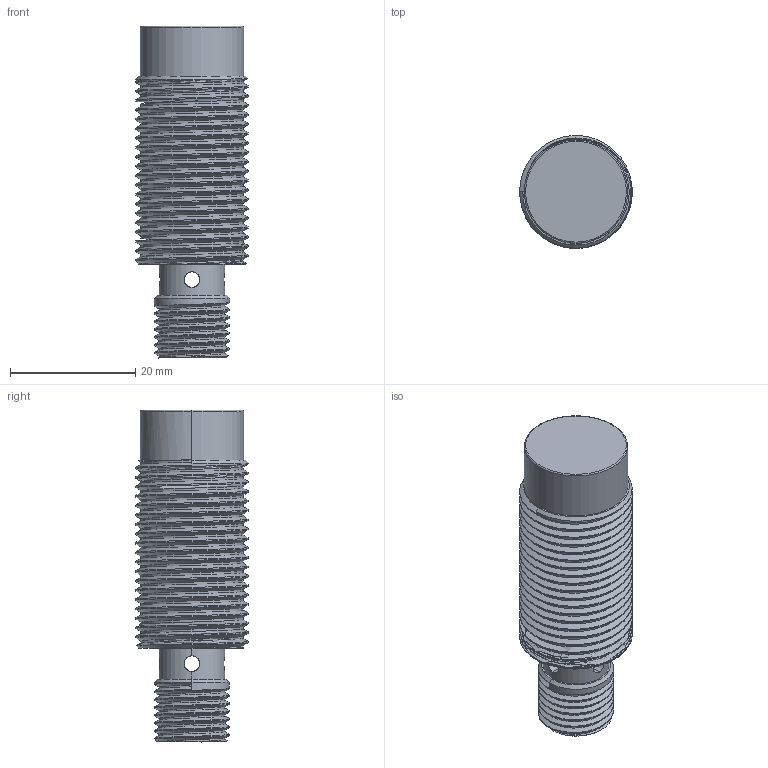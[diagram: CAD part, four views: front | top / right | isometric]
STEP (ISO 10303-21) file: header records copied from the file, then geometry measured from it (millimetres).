
FILE_DESCRIPTION (( 'STEP AP214' ), '1' );
FILE_NAME ('1.BIS5N26.STEP', '2024-11-11T09:10:56', ( '' ), ( '' ), 'SwSTEP 2.0', 'SolidWorks 2022', '' );
FILE_SCHEMA (( 'AUTOMOTIVE_DESIGN' ));
Length unit declared in the file: millimetre
Products named in the file (1): 1.BIS5N26
Bounding box: 18 x 17.98 x 53 mm (x, y, z)
Volume: 9425.7 mm3; surface area: 4579.2 mm2
Topology: 1 solids, 1 shells, 95 faces, 257 edges, 163 vertices
Faces by surface type: cylinder 69, plane 11, cone 7, bspline 6, torus 2
Entity records: 7426 total; most frequent: CARTESIAN_POINT 5357, ORIENTED_EDGE 514, DIRECTION 316, EDGE_CURVE 257, VERTEX_POINT 163, AXIS2_PLACEMENT_3D 115, EDGE_LOOP 100, ADVANCED_FACE 95
